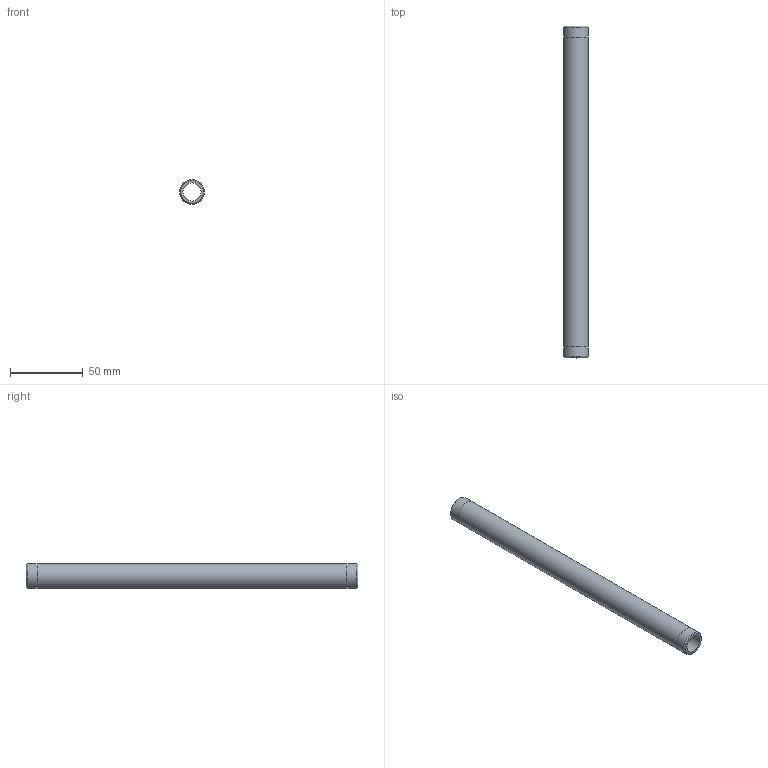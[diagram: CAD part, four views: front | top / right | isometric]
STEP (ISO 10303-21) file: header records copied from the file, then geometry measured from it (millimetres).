
FILE_DESCRIPTION(/* description */ (''),/* implementation_level */ '2;1');
FILE_NAME(/* name */ 'C:/Users/drich/Desktop/SSPN38-9 v1.step',/* time_stamp */ '2020-01-04T13:58:22-06:00',/* author */ (''),/* organization */ (''),/* preprocessor_version */ 'ST-DEVELOPER v18',/* originating_system */ 'Autodesk Translation Framework v8.12.0.6',/* authorisation */ '');
FILE_SCHEMA (('AUTOMOTIVE_DESIGN { 1 0 10303 214 3 1 1 }'));
Length unit declared in the file: inch
Products named in the file (1): SSPN38-9
Bounding box: 17.14 x 228.6 x 17.14 mm (x, y, z)
Volume: 24572.3 mm3; surface area: 21469.6 mm2
Topology: 1 solids, 1 shells, 10 faces, 24 edges, 18 vertices
Faces by surface type: cylinder 4, plane 4, cone 2
Full cylindrical faces by diameter (mm): 12.522 x1, 17.094 x2, 17.145 x1
Entity records: 353 total; most frequent: DIRECTION 64, CARTESIAN_POINT 53, ORIENTED_EDGE 48, AXIS2_PLACEMENT_3D 29, EDGE_CURVE 24, CIRCLE 18, VERTEX_POINT 18, EDGE_LOOP 14
